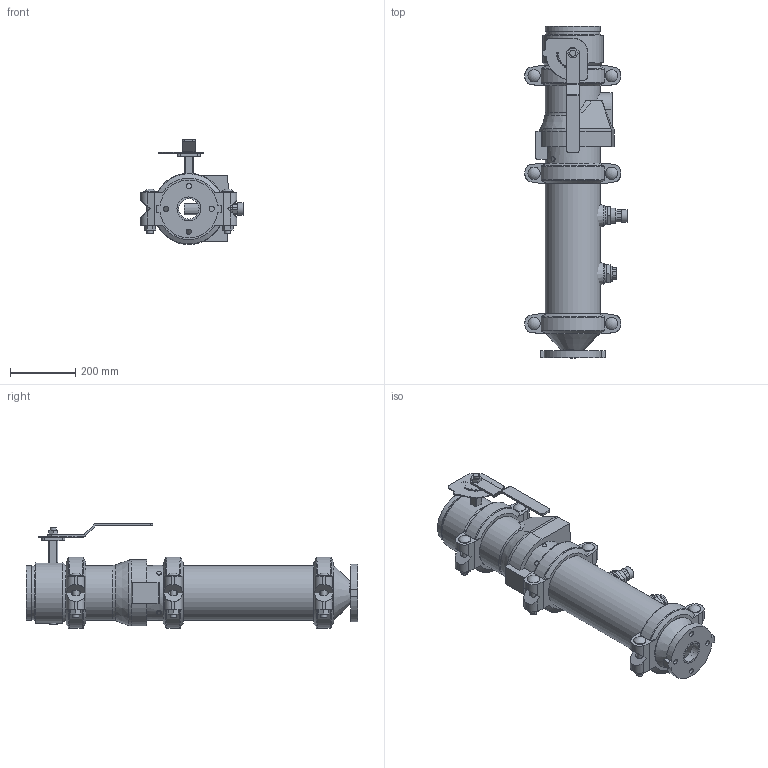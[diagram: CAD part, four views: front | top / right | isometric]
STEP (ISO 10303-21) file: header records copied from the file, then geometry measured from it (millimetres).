
FILE_DESCRIPTION(/* description */ ('VIC DVI PUMP DROP VERT S/380 (OGSxFLG) (S/924-0.75)','CAx-IF Rec.Pracs.---Representation and Presentation of Product Manufacturing Information (PMI)---4.0---2014-10-13'),/* implementation_level */ '2;1');
FILE_NAME(/* name */ 'C:\Users\Public\Documents\Victaulic.Temp\A765\Victaulic_IPS_Vertical DVI_CL 150_Series 380 (OGSxFLG)_924 (0.75)_06.0x02.5 (150x65).stp',/* time_stamp */ '2022-07-25T11:12:09+02:00',/* author */ ('Vjadhav'),/* organization */ ('Victaulic'),/* preprocessor_version */ 'ST-DEVELOPER v18',/* originating_system */ 'Autodesk Inventor 2020',/* authorisation */ '');
FILE_SCHEMA (('AP242_MANAGED_MODEL_BASED_3D_ENGINEERING_MIM_LF { 1 0 10303 442 1 1 4 }'));
Length unit declared in the file: inch
Products named in the file (9): 380_924 (0.75)-06.0x02.5; 741-02.5; 050-06.0x02.5; Pipe-06.0; 177N-06.0; 761-06.0; 779-06.0; 923-04.0x0.75; 924-04.0x0.75
Assembly tree (10 placements, depth 2):
  380_924 (0.75)-06.0x02.5
    741-02.5
    050-06.0x02.5
    177N-06.0  x3
    Pipe-06.0
    761-06.0
    779-06.0
    923-04.0x0.75
    924-04.0x0.75
Bounding box: 313.48 x 1019.17 x 322.07 mm (x, y, z)
Volume: 10719713.1 mm3; surface area: 1788260.1 mm2
Topology: 10 solids, 11 shells, 587 faces, 1531 edges, 1024 vertices
Faces by surface type: plane 345, cylinder 196, cone 20, torus 18, sphere 6, bspline 2
Full cylindrical faces by diameter (mm): 4.826 x10, 8.636 x4, 13.716 x4, 15.875 x4, 19.05 x8, 22.86 x1, 26.67 x2, 37.694 x6, 38.608 x1, 45.974 x4, 55.118 x1, 55.626 x2, 62.713 x1, 69.088 x1, 73.025 x3, 154.051 x4, 155.575 x3, 163.957 x7, 168.275 x19, 185.42 x1
Entity records: 13926 total; most frequent: CARTESIAN_POINT 2767, DIRECTION 2297, ORIENTED_EDGE 2090, EDGE_CURVE 1045, AXIS2_PLACEMENT_3D 872, VERTEX_POINT 704, LINE 553, VECTOR 553
